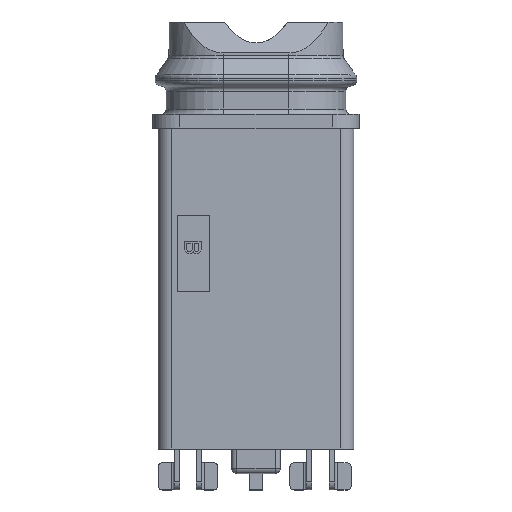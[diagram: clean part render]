
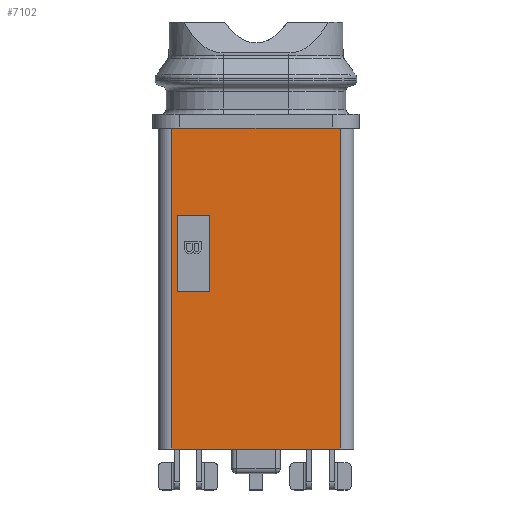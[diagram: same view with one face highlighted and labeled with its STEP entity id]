
A CAD part, top view. The second image highlights one B-rep face of the part: STEP entity #7102.
In plain terms, the highlighted planar face has unit normal (0, 0, 1).
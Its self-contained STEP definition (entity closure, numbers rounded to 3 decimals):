
#41=DIRECTION('',(-1.,0.,0.));
#42=VECTOR('',#41,6.2);
#43=CARTESIAN_POINT('',(3.1,0.,2.075));
#44=LINE('',#43,#42);
#1180=DIRECTION('',(-1.,0.,0.));
#1181=VECTOR('',#1180,6.2);
#1182=CARTESIAN_POINT('',(3.1,-11.8,2.075));
#1183=LINE('',#1182,#1181);
#2064=DIRECTION('',(0.,1.,0.));
#2065=VECTOR('',#2064,11.8);
#2066=CARTESIAN_POINT('',(-3.1,-11.8,2.075));
#2067=LINE('',#2066,#2065);
#2068=DIRECTION('',(0.,1.,0.));
#2069=VECTOR('',#2068,11.8);
#2070=CARTESIAN_POINT('',(3.1,-11.8,2.075));
#2071=LINE('',#2070,#2069);
#2072=DIRECTION('',(0.,1.,0.));
#2073=VECTOR('',#2072,2.8);
#2074=CARTESIAN_POINT('',(-1.7,-6.,2.075));
#2075=LINE('',#2074,#2073);
#2076=DIRECTION('',(-1.,0.,0.));
#2077=VECTOR('',#2076,1.2);
#2078=CARTESIAN_POINT('',(-1.7,-3.2,2.075));
#2079=LINE('',#2078,#2077);
#2080=DIRECTION('',(0.,-1.,0.));
#2081=VECTOR('',#2080,2.8);
#2082=CARTESIAN_POINT('',(-2.9,-3.2,2.075));
#2083=LINE('',#2082,#2081);
#2084=DIRECTION('',(1.,0.,0.));
#2085=VECTOR('',#2084,1.2);
#2086=CARTESIAN_POINT('',(-2.9,-6.,2.075));
#2087=LINE('',#2086,#2085);
#3419=CARTESIAN_POINT('',(-3.1,-11.8,2.075));
#3420=CARTESIAN_POINT('',(-3.1,0.,2.075));
#3421=VERTEX_POINT('',#3419);
#3422=VERTEX_POINT('',#3420);
#3431=CARTESIAN_POINT('',(3.1,-11.8,2.075));
#3432=VERTEX_POINT('',#3431);
#3433=CARTESIAN_POINT('',(3.1,0.,2.075));
#3434=VERTEX_POINT('',#3433);
#3523=CARTESIAN_POINT('',(-1.7,-6.,2.075));
#3524=CARTESIAN_POINT('',(-1.7,-3.2,2.075));
#3525=VERTEX_POINT('',#3523);
#3526=VERTEX_POINT('',#3524);
#3527=CARTESIAN_POINT('',(-2.9,-3.2,2.075));
#3528=VERTEX_POINT('',#3527);
#3529=CARTESIAN_POINT('',(-2.9,-6.,2.075));
#3530=VERTEX_POINT('',#3529);
#7080=CARTESIAN_POINT('',(3.6,0.,2.075));
#7081=DIRECTION('',(0.,0.,1.));
#7082=DIRECTION('',(-1.,0.,0.));
#7083=AXIS2_PLACEMENT_3D('',#7080,#7081,#7082);
#7084=PLANE('',#7083);
#7085=ORIENTED_EDGE('',*,*,#7072,.T.);
#7086=ORIENTED_EDGE('',*,*,#4312,.F.);
#7088=ORIENTED_EDGE('',*,*,#7087,.F.);
#7089=ORIENTED_EDGE('',*,*,#5826,.T.);
#7090=EDGE_LOOP('',(#7085,#7086,#7088,#7089));
#7091=FACE_OUTER_BOUND('',#7090,.F.);
#7093=ORIENTED_EDGE('',*,*,#7092,.T.);
#7095=ORIENTED_EDGE('',*,*,#7094,.T.);
#7097=ORIENTED_EDGE('',*,*,#7096,.T.);
#7099=ORIENTED_EDGE('',*,*,#7098,.T.);
#7100=EDGE_LOOP('',(#7093,#7095,#7097,#7099));
#7101=FACE_BOUND('',#7100,.F.);
#4312=EDGE_CURVE('',#3434,#3422,#44,.T.);
#5826=EDGE_CURVE('',#3432,#3421,#1183,.T.);
#7072=EDGE_CURVE('',#3421,#3422,#2067,.T.);
#7087=EDGE_CURVE('',#3432,#3434,#2071,.T.);
#7092=EDGE_CURVE('',#3525,#3526,#2075,.T.);
#7094=EDGE_CURVE('',#3526,#3528,#2079,.T.);
#7096=EDGE_CURVE('',#3528,#3530,#2083,.T.);
#7098=EDGE_CURVE('',#3530,#3525,#2087,.T.);
#7102=ADVANCED_FACE('',(#7091,#7101),#7084,.T.);
